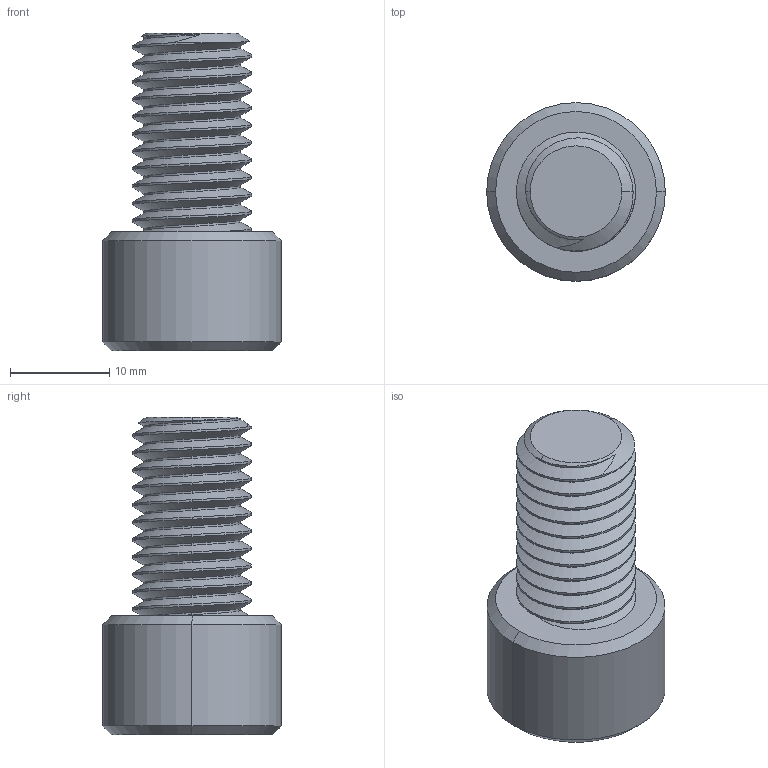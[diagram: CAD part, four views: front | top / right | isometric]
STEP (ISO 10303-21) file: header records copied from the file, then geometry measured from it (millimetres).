
FILE_DESCRIPTION (( 'STEP AP203' ), '1' );
FILE_NAME ('SOCKET HEAD CAP SCREW M12 x 1.75 mm Thread 20 mm Long.STEP', '2017-03-06T13:51:42', ( 'itdept' ), ( '' ), 'SwSTEP 2.0', 'SolidWorks 2016', '' );
FILE_SCHEMA (( 'CONFIG_CONTROL_DESIGN' ));
Length unit declared in the file: millimetre
Products named in the file (1): SOCKET HEAD CAP SCREW M12 x 1.75 mm Thread 20 mm Long
Bounding box: 18 x 18 x 32 mm (x, y, z)
Volume: 4208.2 mm3; surface area: 2541.3 mm2
Topology: 1 solids, 1 shells, 74 faces, 194 edges, 124 vertices
Faces by surface type: cylinder 49, cone 13, plane 10, bspline 2
Entity records: 3588 total; most frequent: CARTESIAN_POINT 1989, ORIENTED_EDGE 388, DIRECTION 254, EDGE_CURVE 194, VERTEX_POINT 124, AXIS2_PLACEMENT_3D 94, EDGE_LOOP 76, FACE_OUTER_BOUND 74
